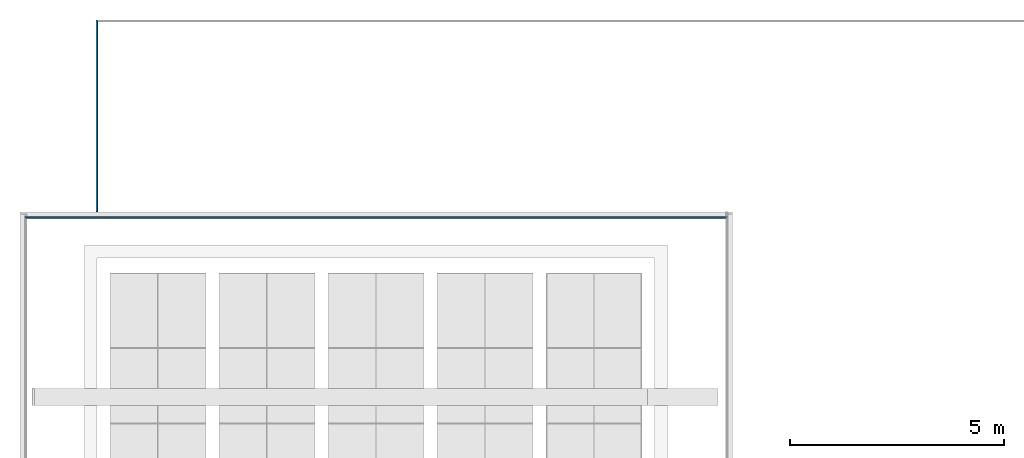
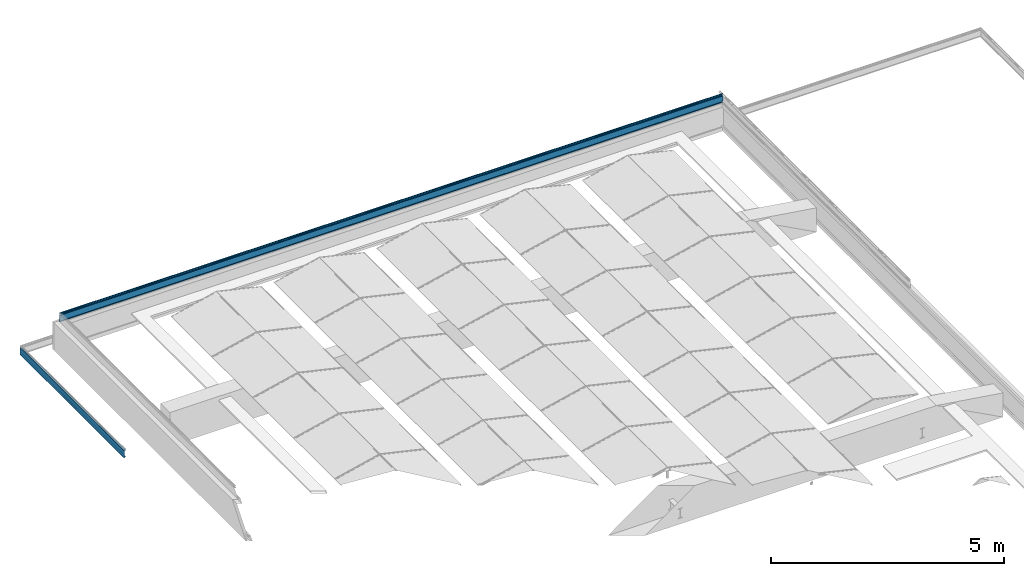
# One storey, part 12 of 25: 5 building element parts, 2 elements without a shape of their own.
"""IFC2X3 building model written with IfcOpenShell, lengths in millimetres."""

from ifc_helpers import new_model, entity, si_unit, converted_unit, derived_unit, money_unit, direction, frame, origin_with_axes, place, context, subcontext, project, spatial, faceted_brep, material, type_object, element, aggregate, save


model = new_model("IFC2X3")

# Units and contexts
model_context = context("Model", 3, precision=0.01, world=origin_with_axes(), true_north=direction((0.0, 1.0)))
body_context = subcontext(model_context, "Body", "Model", "MODEL_VIEW")
ifc_project = project(units=[si_unit("LENGTHUNIT", "METRE", prefix="MILLI"), si_unit("AREAUNIT", "SQUARE_METRE"), si_unit("VOLUMEUNIT", "CUBIC_METRE"), converted_unit("PLANEANGLEUNIT", "DEGREE", entity("IfcPlaneAngleMeasure", 0.0174532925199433), si_unit("PLANEANGLEUNIT", "RADIAN"), dimensions=[0, 0, 0, 0, 0, 0, 0]), money_unit("EUR"), converted_unit("TIMEUNIT", "Year", entity("IfcTimeMeasure", 31557600.0), si_unit("TIMEUNIT", "SECOND"), dimensions=[0, 0, 1, 0, 0, 0, 0]), si_unit("MASSUNIT", "GRAM", prefix="KILO"), si_unit("THERMODYNAMICTEMPERATUREUNIT", "DEGREE_CELSIUS"), si_unit("LUMINOUSINTENSITYUNIT", "LUMEN"), si_unit("ENERGYUNIT", "JOULE", prefix="MEGA"), derived_unit("THERMALCONDUCTANCEUNIT", [(si_unit("POWERUNIT", "WATT"), 1), (si_unit("LENGTHUNIT", "METRE"), -1), (si_unit("THERMODYNAMICTEMPERATUREUNIT", "KELVIN"), -1)]), derived_unit("SPECIFICHEATCAPACITYUNIT", [(si_unit("ENERGYUNIT", "JOULE"), 1), (si_unit("MASSUNIT", "GRAM", prefix="KILO"), -1), (si_unit("THERMODYNAMICTEMPERATUREUNIT", "KELVIN"), -1)]), derived_unit("MASSDENSITYUNIT", [(si_unit("MASSUNIT", "GRAM", prefix="KILO"), 1), (si_unit("VOLUMEUNIT", "CUBIC_METRE"), -1)])], contexts=[model_context])

# Site, building, storey
site_placement = place(None, origin_with_axes())
site = spatial("IfcSite", under=ifc_project, at=site_placement, Name="<site naam>", CompositionType="ELEMENT")
building_placement = place(site_placement, origin_with_axes())
building = spatial("IfcBuilding", under=site, at=building_placement, Name="<Naam gebouw>", CompositionType="ELEMENT")
storey_placement = place(building_placement, frame((0.0, 0.0, 9563.0), z_axis=(0.0, 0.0, 1.0), x_axis=(1.0, 0.0, 0.0)))
storey = spatial("IfcBuildingStorey", under=building, at=storey_placement, Name="03 3e tussenverdieping", CompositionType="ELEMENT", Elevation=9563.0)

# Beam, building element parts
beam_type = type_object("IfcBeamType", Name="Aluminium daktrim 45 x 250", PredefinedType="BEAM")
beam_1_placement = place(storey_placement, frame((4335.04446815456, 20324.99274332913, -1057.000005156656), z_axis=(0.0, 0.0, 1.0), x_axis=(0.0, 1.0, 0.0)))
beam_1 = element("IfcBeam", 1, at=beam_1_placement, inside=storey, type_object=beam_type, Name="47_Balk_Aluminium", ObjectType="BEAM")
ifc_material = material(Name="aluminium")
building_element_part_1_placement = place(beam_1_placement, origin_with_axes())
building_element_part_1 = element("IfcBuildingElementPart", 2, at=building_element_part_1_placement, material=ifc_material, Name="aluminium", context=body_context, shape_type="Brep", body=[
    faceted_brep([(-154.9972414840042, 16505.04722424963, 274.4142779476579), (-154.8951277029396, 16505.14933803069, 274.1677553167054), (-154.8951277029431, 154.895127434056, 274.1677553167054), (-154.9972414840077, 154.9972414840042, 274.4142775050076), (-128.1981216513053, 16531.84634408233, 274.066030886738), (-154.6486035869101, 16505.39586214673, 274.0656451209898), (-154.8947842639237, 16505.14968146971, 274.6611444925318), (-154.6476320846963, 16505.39683364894, 274.7629107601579), (-149.9991945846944, 16510.04527114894, 275.2648638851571), (-149.698413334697, 16510.34605239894, 275.565645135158), (-147.2999758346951, 16512.74448989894, 275.565645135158), (-146.9991945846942, 16513.04527114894, 275.2648638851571), (-143.9991945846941, 16516.04527114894, 275.2648638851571), (-143.6984133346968, 16516.34605239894, 275.565645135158), (-141.2999758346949, 16518.74448989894, 275.565645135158), (-140.9991945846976, 16519.04527114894, 275.2648638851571), (-137.9991945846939, 16522.04527114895, 275.2648638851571), (-137.6984133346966, 16522.34605239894, 275.565645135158), (-135.2999758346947, 16524.74448989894, 275.565645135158), (-134.9991945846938, 16525.04527114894, 275.2648638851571), (-131.9991945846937, 16528.04527114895, 275.2648638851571), (-131.6984133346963, 16528.34605239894, 275.565645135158), (-129.2999758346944, 16530.74448989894, 275.565645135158), (-128.9991945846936, 16531.04527114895, 275.2648638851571), (-128.1984107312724, 16531.84605500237, 275.2648638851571), (-120.0158638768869, 16540.02860185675, 277.1388822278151), (-113.4645529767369, 16546.5799127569, 282.3873432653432), (-112.684197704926, 16547.36026802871, 282.7641787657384), (-112.1970030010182, 16547.84746273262, 282.7648658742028), (-111.490808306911, 16548.55365742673, 283.0582564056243), (-111.1984133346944, 16548.84605239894, 283.7648638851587), (-111.1984133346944, 16548.84605239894, 292.3664263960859), (-111.3448599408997, 16548.69960579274, 292.719979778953), (-111.6984133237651, 16548.34605240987, 292.8664263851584), (-120.7999758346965, 16539.24448989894, 292.8664263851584), (-121.153529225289, 16538.89093650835, 292.7199797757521), (-121.2999758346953, 16538.74448989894, 292.3664263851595), (-121.2999758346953, 16538.74448989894, 290.6652544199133), (-121.4748532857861, 16538.56961244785, 290.2428198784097), (-121.8971453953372, 16538.1473203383, 290.0675987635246), (-122.3197220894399, 16537.72474364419, 290.2421324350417), (-122.4952867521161, 16537.54917898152, 290.6642818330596), (-122.4991919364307, 16537.5452737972, 293.0640177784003), (-122.2068758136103, 16537.83758992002, 293.7721760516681), (-121.499194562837, 16538.5452711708, 294.0656451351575), (-110.9991946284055, 16549.04527110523, 294.0656451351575), (-110.2920878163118, 16549.75237791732, 293.7727519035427), (-109.9991945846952, 16550.04527114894, 293.0656450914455), (-109.9991945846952, 16550.04527114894, 250.0656451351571), (-110.2920878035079, 16549.75237793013, 249.3585383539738), (-110.9991945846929, 16549.04527114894, 249.0656451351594), (-111.4991731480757, 16548.54529258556, 249.1996073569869), (-117.6977781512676, 16542.34668758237, 252.7781690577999), (-117.9774779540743, 16542.06698777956, 253.1426342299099), (-117.9175736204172, 16542.12689211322, 253.598132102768), (-117.5531500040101, 16542.49131572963, 253.8778860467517), (-117.0976432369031, 16542.94682249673, 253.8180493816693), (-113.8976320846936, 16546.14683364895, 251.9718951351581), (-113.8976320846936, 16546.14683364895, 252.565645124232), (-113.7511854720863, 16546.29328026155, 252.9191985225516), (-113.3976320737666, 16546.64683365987, 253.0656451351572), (-113.1984133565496, 16546.84605237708, 253.0656451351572), (-112.8448599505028, 16547.19960578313, 252.9191985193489), (-112.6984133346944, 16547.34605239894, 252.5656451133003), (-112.6984133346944, 16547.34605239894, 251.278535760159), (-111.9489165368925, 16548.09554919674, 250.8452329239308), (-111.6116899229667, 16548.43277581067, 250.7856033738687), (-111.3150643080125, 16548.72940142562, 250.9567486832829), (-111.197910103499, 16548.84655563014, 251.278544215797), (-111.1984133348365, 16548.8460523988, 281.0656535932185), (-111.3448629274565, 16548.69960280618, 281.419201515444), (-111.6984133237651, 16548.34605240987, 281.5656451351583), (-112.1984133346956, 16547.84605239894, 281.5656451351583), (-112.5519667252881, 16547.49249900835, 281.4191985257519), (-112.6984133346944, 16547.34605239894, 281.0656451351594), (-112.6984133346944, 16547.34605239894, 279.5656451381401), (-112.8448599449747, 16547.19960578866, 279.212091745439), (-113.1984133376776, 16546.84605239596, 279.065645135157), (-114.9718508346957, 16545.07261489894, 279.065645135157), (-120.1773366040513, 16539.86712912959, 275.7461395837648), (-120.3116945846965, 16539.73277114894, 275.4250201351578), (-120.5695070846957, 16539.47495864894, 275.3156451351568), (-120.889819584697, 16539.15464614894, 275.448457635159), (-121.5401955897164, 16538.50427014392, 275.2060759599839), (-121.694507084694, 16538.34995864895, 274.897676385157), (-121.9640383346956, 16538.08042739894, 274.8078326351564), (-122.2726320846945, 16537.77183364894, 274.9640826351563), (-154.6486035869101, 154.6486067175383, 274.0656451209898), (-127.5269313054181, 154.8951271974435, 274.1677547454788), (-125.9003345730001, 154.9972414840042, 274.4142775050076), (-154.8947842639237, 154.894785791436, 274.6611444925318), (-128.1981216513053, 154.6495380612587, 274.066030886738), (-154.6476320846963, 154.6476305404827, 274.7629107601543), (-149.9991945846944, 149.9991997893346, 275.2648638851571), (-149.6984133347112, 149.6984150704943, 275.565645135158), (-147.299975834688, 149.698415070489, 275.5656451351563), (-146.9991950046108, 149.999195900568, 275.264864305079), (-143.9991945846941, 149.9991997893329, 275.2648638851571), (-143.6984133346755, 149.698415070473, 275.5656451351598), (-141.2999758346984, 149.6984150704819, 275.5656451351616), (-140.9991950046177, 149.999195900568, 275.2648643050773), (-137.9991945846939, 149.9991997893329, 275.2648638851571), (-137.6984133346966, 149.6984150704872, 275.565645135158), (-135.2999758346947, 149.6984150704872, 275.565645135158), (-134.9991950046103, 149.999195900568, 275.2648643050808), (-131.9991945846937, 149.9991997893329, 275.2648638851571), (-131.6984133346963, 149.6984150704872, 275.5656451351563), (-129.2999758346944, 149.698415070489, 275.565645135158), (-128.9991950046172, 149.999195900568, 275.2648643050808), (-128.1984107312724, 149.9991997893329, 275.2648638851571), (-126.8851056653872, 149.6984149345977, 275.5656452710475), (-126.8851056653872, 126.8851032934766, 275.5656452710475), (-120.0158716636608, 120.0158634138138, 277.1388804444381), (-113.4645529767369, 113.4645534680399, 282.3873432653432), (-112.6841987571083, 112.6841981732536, 282.7641782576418), (-112.1970030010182, 112.6841981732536, 282.7645220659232), (-112.1970030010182, 112.1971352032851, 282.7648658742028), (-111.4908093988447, 111.4908076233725, 283.0582559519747), (-111.1984133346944, 111.1984141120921, 283.7648655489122), (-111.1984133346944, 111.1984141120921, 290.067599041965), (-111.1984133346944, 121.8971442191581, 290.067599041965), (-111.1984133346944, 122.3197217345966, 290.2421331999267), (-111.1984133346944, 122.4952857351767, 290.664283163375), (-111.1984133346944, 122.4980573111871, 292.3664263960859), (-111.3448599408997, 122.498632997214, 292.719979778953), (-111.6984133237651, 122.498871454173, 292.8664263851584), (-120.7999758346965, 122.498871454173, 292.8664263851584), (-121.153529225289, 122.4986329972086, 292.7199797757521), (-121.2999758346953, 122.4980573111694, 292.3664263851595), (-121.2999758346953, 122.49528731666, 290.6652544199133), (-121.476508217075, 122.3197217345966, 290.2421331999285), (-121.8971447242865, 121.8971442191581, 290.0675990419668), (-122.3197220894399, 122.3197198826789, 290.2421324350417), (-122.4952860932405, 122.4952857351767, 290.664283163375), (-122.4990836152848, 122.4985215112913, 293.06564440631), (-122.2072220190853, 122.2068740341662, 293.7721771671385), (-121.4995425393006, 121.4991936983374, 294.0656451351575), (-110.9991946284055, 121.4991936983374, 294.0656451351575), (-110.2918492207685, 122.2068740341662, 293.7721771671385), (-109.9991945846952, 122.499193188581, 293.0640172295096), (-109.9991945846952, 122.4952857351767, 290.664283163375), (-109.9991945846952, 122.3197217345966, 290.2421331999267), (-109.9991945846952, 121.8971442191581, 290.067599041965), (-109.9991945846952, 111.1984141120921, 290.067599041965), (-109.9991945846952, 111.1984141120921, 283.7648655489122), (-109.9991945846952, 111.4908076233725, 283.0582559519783), (-109.9991945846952, 112.1970045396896, 282.7648660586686), (-109.9991945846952, 112.6841981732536, 282.7641782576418), (-109.9991945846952, 113.4645511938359, 282.3873450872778), (-109.9991945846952, 120.0158634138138, 277.1388804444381), (-109.9991945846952, 126.8851032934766, 275.5656452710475), (-109.9991945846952, 149.6984149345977, 275.5656452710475), (-109.9991945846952, 149.999195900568, 275.264864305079), (-109.9991945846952, 154.6476303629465, 274.762910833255), (-109.9991945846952, 154.894785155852, 274.6611460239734), (-109.9991945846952, 154.9972414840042, 274.4142775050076), (-109.9991945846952, 154.8951271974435, 274.1677547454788), (-109.9991945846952, 154.6486044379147, 274.0656441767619), (-109.9991945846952, 111.1982951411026, 274.0656441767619), (-109.9991945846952, 111.1979530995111, 253.8778846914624), (-109.9991945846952, 117.5531490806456, 253.8778846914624), (-109.9991945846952, 117.9175720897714, 253.5981318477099), (-109.9991945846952, 117.97747770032, 253.14263282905), (-109.9991945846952, 117.9183714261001, 253.0656177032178), (-109.9991945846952, 143.0058878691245, 253.0654652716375), (-109.9991945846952, 143.0058878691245, 250.0656452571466), (-110.2920878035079, 143.0058878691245, 249.3585378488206), (-110.9991945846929, 143.0058878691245, 249.0656453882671), (-111.4991731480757, 143.0058878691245, 249.1996073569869), (-117.6977781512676, 143.0058878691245, 252.7781690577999), (-117.918256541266, 143.0058878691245, 253.0654652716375), (-117.9183735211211, 117.9183714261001, 253.0656177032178), (-117.9774779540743, 117.9774775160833, 253.1426342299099), (-117.9175736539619, 117.9175720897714, 253.5981318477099), (-117.5531396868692, 117.5531490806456, 253.8778846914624), (-117.0976432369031, 117.6310941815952, 253.8180493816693), (-116.7164515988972, 117.9175720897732, 253.5981318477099), (-115.9269173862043, 117.9774777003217, 253.14263282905), (-115.7934240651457, 117.9183714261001, 253.0656177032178), (-115.7931598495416, 143.0058878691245, 253.0654652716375), (-113.8976320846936, 143.0058878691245, 251.9718951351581), (-113.8976320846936, 143.0058878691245, 252.565645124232), (-113.7511854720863, 143.0058878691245, 252.9191985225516), (-113.3980663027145, 143.0058878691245, 253.0654652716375), (-113.1979791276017, 143.0058878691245, 253.0654652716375), (-112.8448599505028, 143.0058878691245, 252.9191985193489), (-112.6984133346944, 143.0058878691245, 252.5656451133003), (-112.6984133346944, 143.0058878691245, 251.278535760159), (-111.9489165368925, 143.0058878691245, 250.8452329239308), (-111.6116899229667, 143.0058878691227, 250.7856033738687), (-111.3150643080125, 143.0058878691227, 250.9567486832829), (-111.197910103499, 143.0058878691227, 251.278544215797), (-111.1979402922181, 143.0058878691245, 253.0654652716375), (-111.1979402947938, 117.9183714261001, 253.0656177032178), (-111.1979415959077, 117.97747770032, 253.14263282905), (-111.1979492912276, 117.9175720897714, 253.5981318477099), (-111.1979540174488, 117.5531490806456, 253.8778846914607), (-111.1979540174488, 111.1979530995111, 253.8778846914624), (-111.1982950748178, 111.1982951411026, 274.0656441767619), (-111.1982950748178, 154.6486044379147, 274.0656441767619), (-111.1982967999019, 154.8951271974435, 274.1677547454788), (-111.1983009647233, 154.9972414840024, 274.4142775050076), (-111.1983051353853, 154.8947851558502, 274.6611460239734), (-111.1983068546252, 154.6476303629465, 274.7629108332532), (-111.1983153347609, 149.999195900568, 275.264864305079), (-111.1983204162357, 149.6984149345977, 275.5656452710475), (-111.1983204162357, 126.8851032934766, 275.5656452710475), (-111.1983469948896, 120.0158634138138, 277.1388804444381), (-111.1984133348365, 115.1143315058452, 281.0656535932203), (-111.3448629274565, 114.673020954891, 281.419201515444), (-111.6984133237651, 114.4902250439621, 281.5656451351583), (-112.1984133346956, 114.4902250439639, 281.5656451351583), (-112.5519667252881, 114.6730246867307, 281.4191985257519), (-112.6984133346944, 115.1143420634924, 281.0656451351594), (-112.6984133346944, 116.9866931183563, 279.5656451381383), (-112.8448599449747, 117.4280104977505, 279.2120917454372), (-113.1984133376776, 117.610810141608, 279.065645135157), (-114.9718508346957, 117.610810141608, 279.065645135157), (-117.9933087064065, 120.0158634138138, 277.1388804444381), (-120.1773366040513, 126.0970083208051, 275.7461395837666), (-120.252856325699, 126.8851032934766, 275.5656452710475), (-120.252856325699, 149.6984149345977, 275.5656452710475), (-120.3116945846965, 149.8390400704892, 275.4250201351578), (-120.5695070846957, 149.9484150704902, 275.3156451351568), (-120.889819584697, 149.815602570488, 275.448457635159), (-121.3824504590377, 149.999195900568, 275.264864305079), (-121.5401955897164, 150.543616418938, 275.2060759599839), (-121.694507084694, 153.3996086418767, 274.897676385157), (-121.9640383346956, 154.231623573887, 274.8078326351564), (-122.2726320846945, 152.7846410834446, 274.9640826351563), (-123.5999959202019, 154.6476303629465, 274.762910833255), (-124.2714564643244, 154.894785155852, 274.6611460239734)], [[[0, 1, 2, 3]], [[4, 5, 1, 0, 6, 7, 8, 9, 10, 11, 12, 13, 14, 15, 16, 17, 18, 19, 20, 21, 22, 23, 24, 25, 26, 27, 28, 29, 30, 31, 32, 33, 34, 35, 36, 37, 38, 39, 40, 41, 42, 43, 44, 45, 46, 47, 48, 49, 50, 51, 52, 53, 54, 55, 56, 57, 58, 59, 60, 61, 62, 63, 64, 65, 66, 67, 68, 69, 70, 71, 72, 73, 74, 75, 76, 77, 78, 79, 80, 81, 82, 83, 84, 85, 86]], [[1, 5, 87, 2]], [[3, 2, 88, 89]], [[0, 3, 90, 6]], [[5, 4, 91, 87]], [[7, 6, 90, 92]], [[8, 7, 92, 93]], [[9, 8, 93, 94]], [[10, 9, 94, 95]], [[11, 10, 95, 96]], [[12, 11, 96, 97]], [[13, 12, 97, 98]], [[14, 13, 98, 99]], [[15, 14, 99, 100]], [[16, 15, 100, 101]], [[17, 16, 101, 102]], [[18, 17, 102, 103]], [[19, 18, 103, 104]], [[20, 19, 104, 105]], [[21, 20, 105, 106]], [[22, 21, 106, 107]], [[23, 22, 107, 108]], [[24, 23, 108, 109]], [[25, 24, 109, 110, 111, 112]], [[26, 25, 112, 113]], [[27, 26, 113, 114]], [[28, 27, 114, 115]], [[29, 28, 115, 116, 117]], [[30, 29, 117, 118]], [[31, 30, 118, 119, 120, 121, 122, 123]], [[32, 31, 123, 124]], [[33, 32, 124, 125]], [[34, 33, 125, 126]], [[35, 34, 126, 127]], [[36, 35, 127, 128]], [[37, 36, 128, 129]], [[38, 37, 129, 130]], [[39, 38, 130, 131]], [[40, 39, 131, 132]], [[41, 40, 132, 133]], [[42, 41, 133, 134]], [[43, 42, 134, 135]], [[44, 43, 135, 136]], [[45, 44, 136, 137]], [[46, 45, 137, 138]], [[47, 46, 138, 139]], [[48, 47, 139, 140, 141, 142, 143, 144, 145, 146, 147, 148, 149, 150, 151, 152, 153, 154, 155, 156, 157, 158, 159, 160, 161, 162, 163, 164, 165]], [[49, 48, 165, 166]], [[50, 49, 166, 167]], [[51, 50, 167, 168]], [[52, 51, 168, 169]], [[53, 52, 169, 170, 171, 172]], [[54, 53, 172, 173]], [[55, 54, 173, 174]], [[56, 55, 174, 175]], [[57, 56, 175, 176, 177, 178, 179, 180]], [[58, 57, 180, 181]], [[59, 58, 181, 182]], [[60, 59, 182, 183]], [[61, 60, 183, 184]], [[62, 61, 184, 185]], [[63, 62, 185, 186]], [[64, 63, 186, 187]], [[65, 64, 187, 188]], [[66, 65, 188, 189]], [[67, 66, 189, 190]], [[68, 67, 190, 191]], [[69, 68, 191, 192, 193, 194, 195, 196, 197, 198, 199, 200, 201, 202, 203, 204, 205, 206, 207, 208]], [[70, 69, 208, 209]], [[71, 70, 209, 210]], [[72, 71, 210, 211]], [[73, 72, 211, 212]], [[74, 73, 212, 213]], [[75, 74, 213, 214]], [[76, 75, 214, 215]], [[77, 76, 215, 216]], [[78, 77, 216, 217]], [[79, 78, 217, 218, 219]], [[80, 79, 219, 220, 221, 222]], [[81, 80, 222, 223]], [[82, 81, 223, 224]], [[83, 82, 224, 225, 226]], [[84, 83, 226, 227]], [[85, 84, 227, 228]], [[86, 85, 228, 229]], [[4, 86, 229, 230, 231, 89, 88, 91]], [[2, 87, 91, 88]], [[90, 3, 89, 231]], [[92, 90, 231, 230]], [[93, 92, 230, 229, 228, 227, 226, 225, 109, 108, 105, 104, 101, 100, 97, 96]], [[96, 95, 94, 93]], [[100, 99, 98, 97]], [[101, 104, 103, 102]], [[105, 108, 107, 106]], [[109, 225, 224, 223, 222, 221, 110]], [[111, 110, 221, 220]], [[111, 220, 219, 218, 112]], [[112, 218, 217, 216, 215, 214, 213, 212, 211, 210, 209, 208, 207, 149, 148, 113]], [[114, 113, 148, 147, 115]], [[115, 147, 146, 116]], [[117, 116, 146, 145]], [[117, 145, 144, 118]], [[144, 143, 119, 118]], [[143, 142, 120, 119]], [[121, 120, 142, 141]], [[122, 121, 141, 140]], [[127, 126, 125, 124, 123, 122, 140, 139, 134, 133, 129, 128]], [[133, 132, 130, 129]], [[131, 130, 132]], [[135, 134, 139, 138]], [[136, 135, 138, 137]], [[206, 150, 149, 207]], [[206, 205, 151, 150]], [[205, 204, 152, 151]], [[204, 203, 153, 152]], [[203, 202, 154, 153]], [[202, 201, 155, 154]], [[201, 200, 156, 155]], [[200, 199, 157, 156]], [[157, 199, 198, 158]], [[159, 158, 198, 197]], [[197, 196, 160, 159]], [[161, 160, 196, 195]], [[162, 161, 195, 194]], [[194, 193, 163, 162]], [[192, 164, 163, 193]], [[181, 180, 179, 170, 169, 168, 167, 166, 165, 164, 192, 191, 190, 189, 188, 187, 186, 185, 184, 183, 182]], [[170, 179, 178, 171]], [[177, 172, 171, 178]], [[172, 177, 176, 173]], [[176, 175, 174, 173]]]),
])
building_element_part_2_placement = place(beam_1_placement, origin_with_axes())
building_element_part_2 = element("IfcBuildingElementPart", 3, at=building_element_part_2_placement, material=ifc_material, Name="aluminium", context=body_context, shape_type="Brep", body=[
    faceted_brep([(-109.9991945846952, 115.2058886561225, 61.56563538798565), (-109.9991945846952, 115.2058886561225, 44.56563661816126), (-110.0058874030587, 16550.03857833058, 44.56563661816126), (-110.0058874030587, 16550.03857833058, 239.0654661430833), (-109.9991945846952, 121.2544895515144, 239.0654649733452), (-109.9991945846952, 111.1979084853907, 237.7678409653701), (-109.9991945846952, 111.1979084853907, 89.56564342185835), (-109.9991945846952, 145.00588684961, 89.56564342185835), (-109.9991945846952, 145.00588684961, 74.16592341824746), (-109.9991945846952, 113.2058859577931, 68.55872406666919), (-109.9991945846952, 113.2058859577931, 61.56563538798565), (-111.1979101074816, 115.2058886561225, 61.56563538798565), (-111.1979101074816, 115.2058886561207, 45.7656366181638), (-114.0058874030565, 115.2058886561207, 45.7656366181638), (-114.0058874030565, 115.2058886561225, 61.56563538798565), (-115.2058874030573, 115.2058886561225, 61.56563538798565), (-115.2058874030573, 115.2058886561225, 44.56563661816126), (-115.2058874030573, 16544.83857833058, 44.56563661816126), (-114.0058874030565, 16546.03857833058, 61.56563661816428), (-114.0058874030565, 16546.03857833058, 45.7656366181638), (-111.1979101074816, 16548.84655562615, 45.7656366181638), (-111.1979101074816, 16548.84655562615, 237.7678423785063), (-143.0058874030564, 16517.03857833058, 241.8720983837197), (-143.0058874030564, 16517.03857833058, 253.0654661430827), (-141.8058874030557, 16518.23857833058, 253.0654661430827), (-141.8058874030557, 16518.23857833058, 243.1686919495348), (-115.2058874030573, 16544.83857833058, 61.56563661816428), (-131.7572847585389, 143.0058878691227, 241.8720984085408), (-141.8058874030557, 143.0058878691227, 243.1686925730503), (-143.0058874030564, 143.0058878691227, 241.8720984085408), (-111.1979101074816, 111.1979084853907, 237.7678409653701), (-111.1979101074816, 111.1979084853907, 89.56564342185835), (-111.1979101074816, 145.00588684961, 89.56564342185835), (-111.1979101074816, 145.00588684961, 74.16592341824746), (-111.1979101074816, 113.2058859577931, 68.55872406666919), (-111.1979101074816, 113.2058859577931, 61.56563538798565), (-143.0058874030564, 143.0058878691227, 253.0654652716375), (-141.8058874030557, 143.0058878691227, 253.0654652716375)], [[[0, 1, 2, 3, 4, 5, 6, 7, 8, 9, 10]], [[1, 0, 11, 12, 13, 14, 15, 16]], [[1, 16, 17, 2]], [[18, 19, 20, 21, 22, 23, 24, 25, 3, 2, 17, 26]], [[27, 4, 3, 25, 28]], [[5, 4, 27, 29, 30]], [[6, 5, 30, 31]], [[7, 6, 31, 32]], [[8, 7, 32, 33]], [[9, 8, 33, 34]], [[10, 9, 34, 35]], [[0, 10, 35, 11]], [[31, 30, 21, 20, 12, 11, 35, 34, 33, 32]], [[13, 12, 20, 19]], [[14, 13, 19, 18]], [[15, 14, 18, 26]], [[16, 15, 26, 17]], [[30, 29, 22, 21]], [[29, 36, 23, 22]], [[36, 37, 24, 23]], [[37, 28, 25, 24]], [[27, 28, 37, 36, 29]]]),
])
building_element_part_3_placement = place(beam_1_placement, origin_with_axes())
building_element_part_3 = element("IfcBuildingElementPart", 4, at=building_element_part_3_placement, material=ifc_material, Name="aluminium", context=body_context, shape_type="Brep", body=[
    faceted_brep([(-112.0058939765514, 115.2058886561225, 61.56563538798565), (-112.0058939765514, 115.2058886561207, 49.56563034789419), (-112.0058939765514, 16548.03857175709, 49.56563034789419), (-112.0058939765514, 16548.03857175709, 69.56564503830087), (-112.0058939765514, 118.9164173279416, 69.56564503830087), (-112.0058939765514, 113.2058859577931, 68.55872406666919), (-112.0058939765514, 113.2058859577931, 61.56563538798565), (-113.2058874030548, 115.2058886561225, 61.56563538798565), (-113.2058874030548, 115.2058886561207, 49.56563034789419), (-113.2058874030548, 16546.83857833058, 49.56563034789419), (-145.0058874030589, 16515.03857833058, 89.56564503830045), (-143.8058874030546, 16516.23857833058, 89.56564503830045), (-143.8058874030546, 16516.23857833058, 75.17284186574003), (-113.2058874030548, 16546.83857833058, 68.55872432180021), (-145.0058874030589, 16515.03857833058, 74.16592230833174), (-138.0953691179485, 145.00588684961, 74.16592341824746), (-143.8058874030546, 145.00588684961, 75.17284186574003), (-145.0058874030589, 145.00588684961, 74.16592341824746), (-113.2058874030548, 113.2058859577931, 68.55872406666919), (-113.2058874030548, 113.2058859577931, 61.56563538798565), (-145.0058874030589, 145.00588684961, 89.56564342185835), (-143.8058874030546, 145.00588684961, 89.56564342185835)], [[[0, 1, 2, 3, 4, 5, 6]], [[1, 0, 7, 8]], [[1, 8, 9, 2]], [[10, 11, 12, 3, 2, 9, 13, 14]], [[15, 4, 3, 12, 16]], [[5, 4, 15, 17, 18]], [[6, 5, 18, 19]], [[0, 6, 19, 7]], [[19, 18, 13, 9, 8, 7]], [[20, 21, 11, 10]], [[21, 16, 12, 11]], [[18, 17, 14, 13]], [[17, 20, 10, 14]], [[15, 16, 21, 20, 17]]]),
])
aggregate(beam_1, [building_element_part_1, building_element_part_2, building_element_part_3])

beam_2_placement = place(storey_placement, frame((-10654.07536898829, 24924.99654780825, -5292.000000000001), z_axis=(0.0, 0.0, 1.0), x_axis=(-1.0, 0.0, 0.0)))
beam_2 = element("IfcBeam", 5, at=beam_2_placement, inside=storey, type_object=beam_type, Name="47_Balk_Aluminium", ObjectType="BEAM")
building_element_part_4_placement = place(beam_2_placement, origin_with_axes())
building_element_part_4 = element("IfcBuildingElementPart", 6, at=building_element_part_4_placement, material=ifc_material, Name="aluminium", context=body_context, shape_type="Brep", body=[
    faceted_brep([(-111.1979101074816, 4589.996550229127, 49.00004976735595), (-110.0058874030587, 4589.996550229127, 49.00004976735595), (-109.9999978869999, 119.9965481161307, 49.00004976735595), (-111.1979101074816, 119.9965481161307, 49.00004976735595), (-111.1979101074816, 4589.996550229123, 237.7678423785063), (-143.0058874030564, 4589.996550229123, 241.8720983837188), (-143.0058874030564, 4589.996550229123, 253.0654661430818), (-141.8058874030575, 4589.996550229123, 253.0654661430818), (-141.8058874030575, 4589.996550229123, 243.1686919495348), (-110.0058874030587, 4589.996550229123, 239.0654661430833), (-110.0058874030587, 110.0058874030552, 239.0654661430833), (-110.0058874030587, 110.0058874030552, 44.56563661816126), (-109.9999978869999, 119.9965481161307, 44.56563661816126), (-115.2058874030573, 119.9965481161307, 44.56563661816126), (-115.205887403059, 119.9965481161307, 49.00004976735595), (-114.0058874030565, 119.9965481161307, 49.00004976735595), (-114.0058874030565, 119.9965481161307, 45.7656366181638), (-111.1979101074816, 119.9965481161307, 45.7656366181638), (-111.1979101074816, 111.197910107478, 45.7656366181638), (-111.1979101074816, 111.197910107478, 237.7678423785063), (-143.0058874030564, 143.0058874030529, 241.8720983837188), (-143.0058874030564, 143.0058874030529, 253.0654661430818), (-141.8058874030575, 141.8058874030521, 253.0654661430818), (-141.8058874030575, 141.8058874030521, 243.1686919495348), (-114.0058874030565, 114.005887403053, 45.7656366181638), (-114.0058874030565, 114.005887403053, 61.56563661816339), (-115.2058874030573, 115.2058874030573, 61.56563661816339), (-115.2058874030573, 115.2058874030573, 44.56563661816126), (-115.205887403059, 4589.996550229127, 49.00004976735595), (-115.205887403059, 4589.996550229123, 61.56563661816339), (-114.0058874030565, 4589.996550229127, 49.00004976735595), (-114.0058874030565, 4589.996550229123, 61.56563661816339)], [[[0, 1, 2, 3]], [[1, 0, 4, 5, 6, 7, 8, 9]], [[1, 9, 10, 11, 12, 2]], [[2, 12, 13, 14, 15, 16, 17, 3]], [[0, 3, 17, 18, 19, 4]], [[4, 19, 20, 5]], [[6, 5, 20, 21]], [[7, 6, 21, 22]], [[8, 7, 22, 23]], [[10, 9, 8, 23]], [[19, 18, 24, 25, 26, 27, 11, 10, 23, 22, 21, 20]], [[12, 11, 27, 13]], [[28, 14, 13, 27, 26, 29]], [[28, 30, 15, 14]], [[31, 25, 24, 16, 15, 30]], [[18, 17, 16, 24]], [[25, 31, 29, 26]], [[30, 28, 29, 31]]]),
])
building_element_part_5_placement = place(beam_2_placement, origin_with_axes())
building_element_part_5 = element("IfcBuildingElementPart", 7, at=building_element_part_5_placement, material=ifc_material, Name="aluminium", context=body_context, shape_type="Brep", body=[
    faceted_brep([(-112.0058939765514, 4589.996550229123, 49.5656303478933), (-112.0058939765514, 4589.996550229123, 69.56564503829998), (-112.0058939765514, 112.0058939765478, 69.56564503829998), (-112.0058939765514, 112.0058939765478, 49.5656303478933), (-113.2058874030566, 4589.996550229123, 49.5656303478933), (-113.2058874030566, 4589.996550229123, 68.55872432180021), (-145.0058874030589, 4589.996550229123, 74.16592230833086), (-145.0058874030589, 4589.996550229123, 89.56564503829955), (-143.8058874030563, 4589.996550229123, 89.56564503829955), (-143.8058874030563, 4589.996550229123, 75.17284186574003), (-143.8058874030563, 143.805887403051, 75.17284186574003), (-143.8058874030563, 143.805887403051, 89.56564503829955), (-145.0058874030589, 145.0058874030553, 89.56564503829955), (-145.0058874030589, 145.0058874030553, 74.16592230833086), (-113.2058874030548, 113.2058874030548, 68.55872432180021), (-113.2058874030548, 113.2058874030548, 49.5656303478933)], [[[0, 1, 2, 3]], [[0, 4, 5, 6, 7, 8, 9, 1]], [[1, 9, 10, 2]], [[3, 2, 10, 11, 12, 13, 14, 15]], [[4, 0, 3, 15]], [[5, 4, 15, 14]], [[6, 5, 14, 13]], [[7, 6, 13, 12]], [[8, 7, 12, 11]], [[9, 8, 11, 10]]]),
])
aggregate(beam_2, [building_element_part_4, building_element_part_5])

save(model, "model.ifc")
